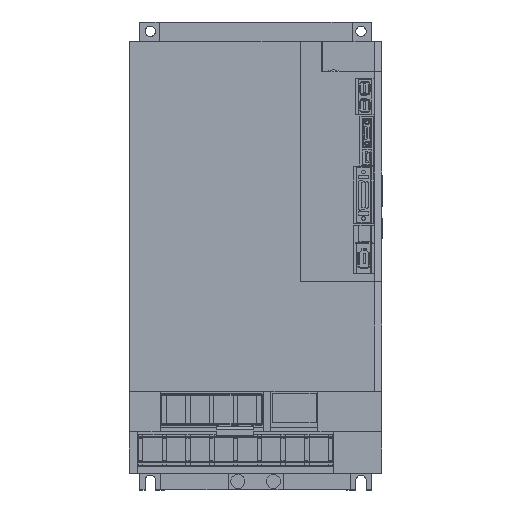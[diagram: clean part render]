
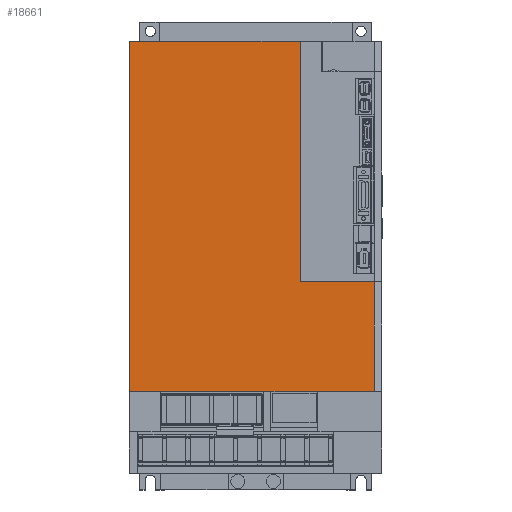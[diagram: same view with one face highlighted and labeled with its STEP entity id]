
A CAD part, top view. The second image highlights one B-rep face of the part: STEP entity #18661.
In plain terms, the highlighted planar face has unit normal (0, 0, 1).
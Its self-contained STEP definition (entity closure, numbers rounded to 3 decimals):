
#14068 = ORIENTED_EDGE ( 'NONE', *, *, #14107, .T. ) ;
#14100 = ORIENTED_EDGE ( 'NONE', *, *, #58086, .T. ) ;
#14103 = EDGE_CURVE ( 'NONE', #14427, #58047, #31101, .T. ) ;
#14107 = EDGE_CURVE ( 'NONE', #58174, #50368, #31097, .T. ) ;
#14346 = EDGE_CURVE ( 'NONE', #14427, #15111, #31123, .T. ) ;
#14427 = VERTEX_POINT ( 'NONE', #31166 ) ;
#14428 = ORIENTED_EDGE ( 'NONE', *, *, #14103, .T. ) ;
#14975 = ORIENTED_EDGE ( 'NONE', *, *, #14346, .F. ) ;
#15111 = VERTEX_POINT ( 'NONE', #31267 ) ;
#15113 = VERTEX_POINT ( 'NONE', #31266 ) ;
#16582 = ORIENTED_EDGE ( 'NONE', *, *, #17700, .F. ) ;
#17700 = EDGE_CURVE ( 'NONE', #15111, #15113, #31345, .T. ) ;
#18005 = EDGE_LOOP ( 'NONE', ( #16582, #14975, #14428, #14100, #14068, #29326 ) ) ;
#18661 = ADVANCED_FACE ( 'NONE', ( #31451 ), #31450, .T. ) ;
#28648 = EDGE_CURVE ( 'NONE', #50368, #15113, #32320, .T. ) ;
#29326 = ORIENTED_EDGE ( 'NONE', *, *, #28648, .T. ) ;
#31094 = DIRECTION ( 'NONE',  ( 0., -1., 0. ) ) ;
#31095 = VECTOR ( 'NONE', #31094, 1000. ) ;
#31096 = CARTESIAN_POINT ( 'NONE',  ( -14., -7., 210. ) ) ;
#31097 = LINE ( 'NONE', #31096, #31095 ) ;
#31098 = DIRECTION ( 'NONE',  ( 0., 1., 0. ) ) ;
#31099 = VECTOR ( 'NONE', #31098, 1000. ) ;
#31100 = CARTESIAN_POINT ( 'NONE',  ( 101., -8., 210. ) ) ;
#31101 = LINE ( 'NONE', #31100, #31099 ) ;
#31120 = DIRECTION ( 'NONE',  ( 1., 0., 0. ) ) ;
#31121 = VECTOR ( 'NONE', #31120, 1000. ) ;
#31122 = CARTESIAN_POINT ( 'NONE',  ( 155., -169., 210. ) ) ;
#31123 = LINE ( 'NONE', #31122, #31121 ) ;
#31166 = CARTESIAN_POINT ( 'NONE',  ( 101., -169., 210. ) ) ;
#31266 = CARTESIAN_POINT ( 'NONE',  ( 151., -243., 210. ) ) ;
#31267 = CARTESIAN_POINT ( 'NONE',  ( 151., -169., 210. ) ) ;
#31342 = DIRECTION ( 'NONE',  ( 0., -1., 0. ) ) ;
#31343 = VECTOR ( 'NONE', #31342, 1000. ) ;
#31344 = CARTESIAN_POINT ( 'NONE',  ( 151., -163.415, 210. ) ) ;
#31345 = LINE ( 'NONE', #31344, #31343 ) ;
#31446 = DIRECTION ( 'NONE',  ( 1., 0., 0. ) ) ;
#31447 = DIRECTION ( 'NONE',  ( 0., 0., 1. ) ) ;
#31448 = CARTESIAN_POINT ( 'NONE',  ( 0., 0., 210. ) ) ;
#31449 = AXIS2_PLACEMENT_3D ( 'NONE', #31448, #31447, #31446 ) ;
#31450 = PLANE ( 'NONE',  #31449 ) ;
#31451 = FACE_OUTER_BOUND ( 'NONE', #18005, .T. ) ;
#32317 = DIRECTION ( 'NONE',  ( 1., 0., 0. ) ) ;
#32318 = VECTOR ( 'NONE', #32317, 1000. ) ;
#32319 = CARTESIAN_POINT ( 'NONE',  ( -14., -243., 210. ) ) ;
#32320 = LINE ( 'NONE', #32319, #32318 ) ;
#34433 = CARTESIAN_POINT ( 'NONE',  ( -14., -243., 210. ) ) ;
#39568 = CARTESIAN_POINT ( 'NONE',  ( 101., -7., 210. ) ) ;
#39629 = DIRECTION ( 'NONE',  ( -1., 0., 0. ) ) ;
#39630 = VECTOR ( 'NONE', #39629, 1000. ) ;
#39632 = CARTESIAN_POINT ( 'NONE',  ( 156., -7., 210. ) ) ;
#39633 = LINE ( 'NONE', #39632, #39630 ) ;
#39802 = CARTESIAN_POINT ( 'NONE',  ( -14., -7., 210. ) ) ;
#50368 = VERTEX_POINT ( 'NONE', #34433 ) ;
#58047 = VERTEX_POINT ( 'NONE', #39568 ) ;
#58086 = EDGE_CURVE ( 'NONE', #58047, #58174, #39633, .T. ) ;
#58174 = VERTEX_POINT ( 'NONE', #39802 ) ;
